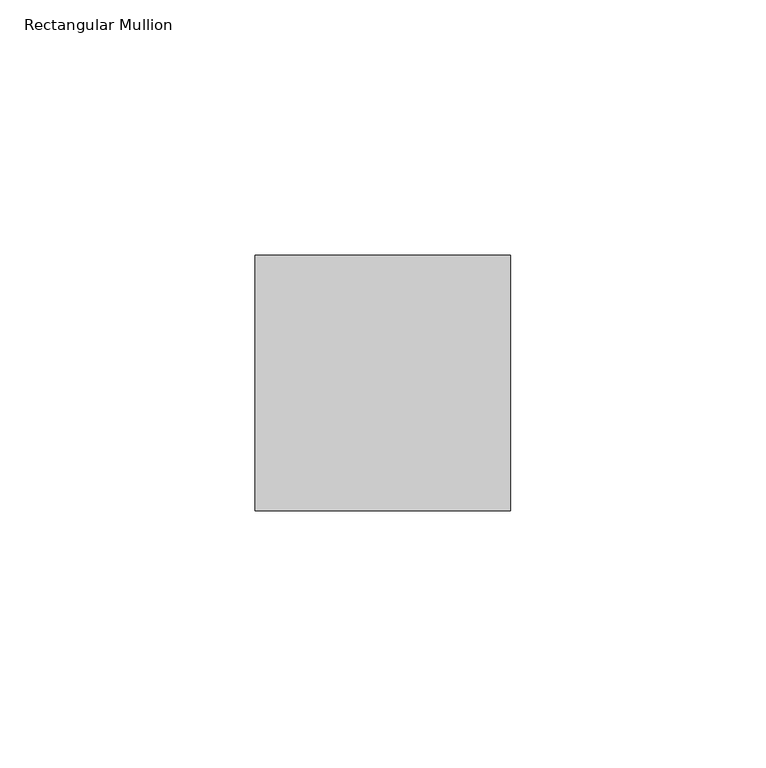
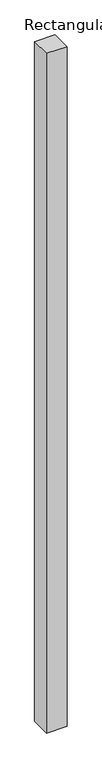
"""IFC4 building model written with IfcOpenShell, lengths in millimetres: member geometry, Rectangular Mullion : Mullion_Curtain Wall_Generic Showcase_50x50mm."""

from ifc_helpers import new_model, si_unit, frame, origin, place, context, project, spatial, polyline, outline, extrude, source, transform, mapped, element, save


def rectangular_mullion_f47001dd(model_context):
    return source(origin(), model_context, "Body", "SweptSolid", [
        extrude(outline(polyline([(25.0, 50.0), (25.0, 0.0), (-25.0, 0.0), (-25.0, 50.0), (25.0, 50.0)])), frame((0.0, 0.0, -1751.9795478), z_axis=(0.0, 0.0, 1.0), x_axis=(1.0, 0.0, 0.0)), (0.0, 0.0, 1.0), 1751.9795478),
    ])


if __name__ == "__main__":
    model = new_model("IFC4")
    model_context = context("Model", 3, world=origin())
    ifc_project = project(units=[si_unit("LENGTHUNIT", "METRE", prefix="MILLI")], contexts=[model_context])
    site = spatial("IfcSite", under=ifc_project)
    building = spatial("IfcBuilding", under=site)
    placement = place(None, origin())
    rectangular_mullion_shape = rectangular_mullion_f47001dd(model_context)
    element("IfcMember", 1, ObjectType="Rectangular Mullion : Mullion_Curtain Wall_Generic Showcase_50x50mm", at=placement, inside=building, context=model_context, shape_type="MappedRepresentation", body=[
        mapped(rectangular_mullion_shape, transform((0.0, 0.0, 0.0), x_axis=(1.0, 0.0, 0.0), y_axis=(0.0, 1.0, 0.0), z_axis=(0.0, 0.0, 1.0))),
    ])
    save(model, "model.ifc")
